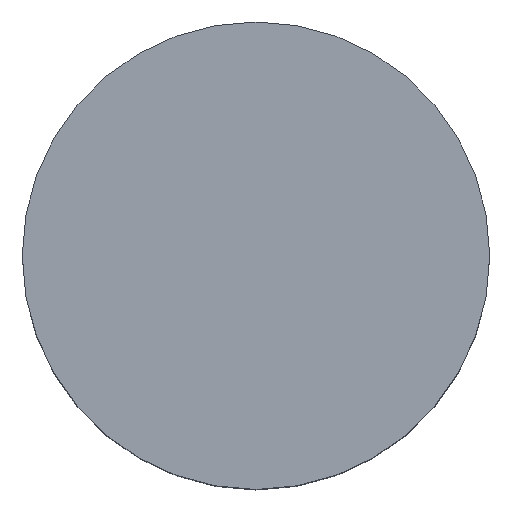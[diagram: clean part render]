
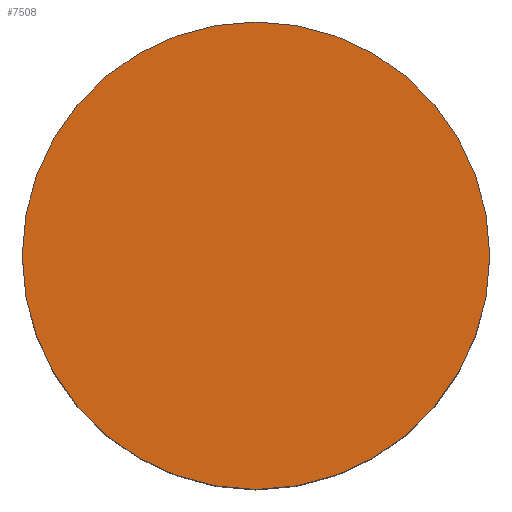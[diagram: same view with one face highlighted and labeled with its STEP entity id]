
A CAD part, top view. The second image highlights one B-rep face of the part: STEP entity #7508.
In plain terms, the highlighted planar face has unit normal (0, 0, 1).
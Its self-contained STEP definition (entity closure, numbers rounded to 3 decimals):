
#1361 = DIRECTION ( 'NONE',  ( 1., 0., 0. ) ) ;
#1404 = CARTESIAN_POINT ( 'NONE',  ( 30.15, 0., 41. ) ) ;
#1405 = DIRECTION ( 'NONE',  ( 1., 0., 0. ) ) ;
#1406 = DIRECTION ( 'NONE',  ( 0., 0., 1. ) ) ;
#1407 = CARTESIAN_POINT ( 'NONE',  ( 0., 0., 41. ) ) ;
#1408 = AXIS2_PLACEMENT_3D ( 'NONE', #1407, #1406, #1405 ) ;
#1434 = CIRCLE ( 'NONE', #1408, 30.15 ) ;
#1449 = CARTESIAN_POINT ( 'NONE',  ( -30.15, 0., 41. ) ) ;
#1455 = DIRECTION ( 'NONE',  ( 0., 0., 1. ) ) ;
#1456 = CARTESIAN_POINT ( 'NONE',  ( 0., 0., 41. ) ) ;
#1457 = AXIS2_PLACEMENT_3D ( 'NONE', #1456, #1455, #1361 ) ;
#1458 = CIRCLE ( 'NONE', #1457, 30.15 ) ;
#1460 = FACE_OUTER_BOUND ( 'NONE', #7528, .T. ) ;
#1462 = PLANE ( 'NONE',  #1472 ) ;
#1468 = DIRECTION ( 'NONE',  ( 1., 0., 0. ) ) ;
#1469 = DIRECTION ( 'NONE',  ( 0., 0., 1. ) ) ;
#1470 = CARTESIAN_POINT ( 'NONE',  ( 0., 0., 41. ) ) ;
#1472 = AXIS2_PLACEMENT_3D ( 'NONE', #1470, #1469, #1468 ) ;
#7496 = EDGE_CURVE ( 'NONE', #7497, #7502, #1434, .T. ) ;
#7497 = VERTEX_POINT ( 'NONE', #1404 ) ;
#7502 = VERTEX_POINT ( 'NONE', #1449 ) ;
#7508 = ADVANCED_FACE ( 'NONE', ( #1460 ), #1462, .T. ) ;
#7520 = ORIENTED_EDGE ( 'NONE', *, *, #7521, .T. ) ;
#7521 = EDGE_CURVE ( 'NONE', #7502, #7497, #1458, .T. ) ;
#7528 = EDGE_LOOP ( 'NONE', ( #7520, #7534 ) ) ;
#7534 = ORIENTED_EDGE ( 'NONE', *, *, #7496, .T. ) ;
